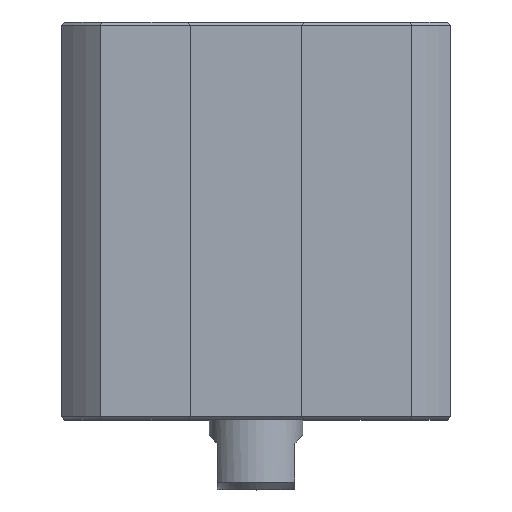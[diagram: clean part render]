
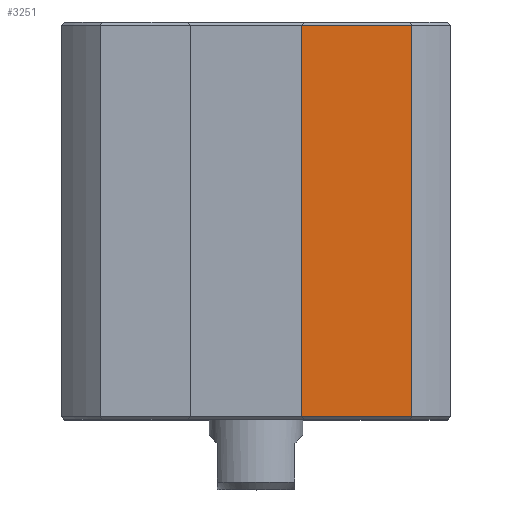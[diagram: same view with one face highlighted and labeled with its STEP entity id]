
A CAD part, top view. The second image highlights one B-rep face of the part: STEP entity #3251.
In plain terms, the highlighted planar face has unit normal (0, 0, 1).
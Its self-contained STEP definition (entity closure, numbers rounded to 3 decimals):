
#102=LINE('',#4521,#286);
#105=LINE('',#4527,#289);
#106=LINE('',#4530,#290);
#107=LINE('',#4531,#291);
#286=VECTOR('',#3827,1000.);
#289=VECTOR('',#3832,1000.);
#290=VECTOR('',#3833,1000.);
#291=VECTOR('',#3834,1000.);
#444=PLANE('',#3453);
#650=ORIENTED_EDGE('',*,*,#1218,.F.);
#651=ORIENTED_EDGE('',*,*,#1219,.T.);
#652=ORIENTED_EDGE('',*,*,#1215,.T.);
#653=ORIENTED_EDGE('',*,*,#1220,.T.);
#1215=EDGE_CURVE('',#1507,#1508,#102,.T.);
#1218=EDGE_CURVE('',#1509,#1510,#105,.T.);
#1219=EDGE_CURVE('',#1509,#1507,#106,.T.);
#1220=EDGE_CURVE('',#1508,#1510,#107,.T.);
#1507=VERTEX_POINT('',#4522);
#1508=VERTEX_POINT('',#4523);
#1509=VERTEX_POINT('',#4528);
#1510=VERTEX_POINT('',#4529);
#1769=EDGE_LOOP('',(#650,#651,#652,#653));
#1971=FACE_BOUND('',#1769,.T.);
#3251=ADVANCED_FACE('',(#1971),#444,.F.);
#3453=AXIS2_PLACEMENT_3D('',#4526,#3830,#3831);
#3827=DIRECTION('',(0.,-1.,0.));
#3830=DIRECTION('',(0.,0.,-1.));
#3831=DIRECTION('',(-1.,0.,0.));
#3832=DIRECTION('',(0.,-1.,0.));
#3833=DIRECTION('',(-1.,0.,0.));
#3834=DIRECTION('',(1.,0.,0.));
#4521=CARTESIAN_POINT('',(2.9,25.5,12.5));
#4522=CARTESIAN_POINT('',(2.9,25.3,12.5));
#4523=CARTESIAN_POINT('',(2.9,0.2,12.5));
#4526=CARTESIAN_POINT('',(2.9,25.5,12.5));
#4527=CARTESIAN_POINT('',(9.987,25.5,12.5));
#4528=CARTESIAN_POINT('',(9.987,25.3,12.5));
#4529=CARTESIAN_POINT('',(9.987,0.2,12.5));
#4530=CARTESIAN_POINT('',(2.9,25.3,12.5));
#4531=CARTESIAN_POINT('',(2.9,0.2,12.5));
